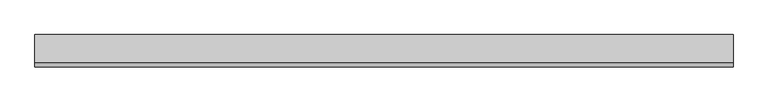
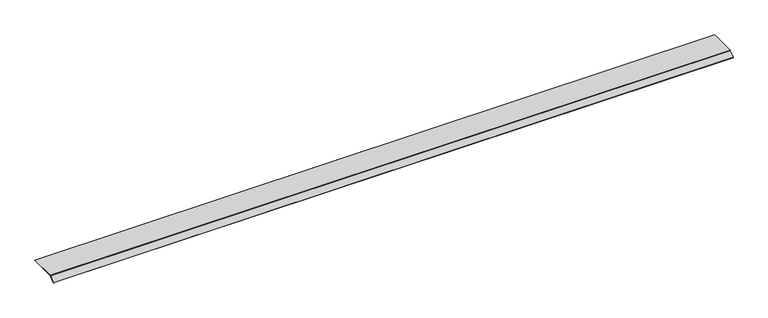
"""IFC4 building model written with IfcOpenShell, lengths in millimetres: proxy geometry, Electrical_Installation_Hager_Blank-Cover-800mm-Single-Sided-Height-70mm : Electrical_Installation_Hager_Blank-Cover-800mm-Single-Sided-Height-70mm."""

from ifc_helpers import new_model, si_unit, point, frame, frame_2d, origin, place, context, project, spatial, polyline, circle_curve, trimmed, segment, composite_curve, outline, extrude, source, transform, mapped, element, save


def electrical_fixtures_bae31a8f(model_context):
    return source(origin(), model_context, "Body", "SweptSolid", [
        extrude(outline(composite_curve([segment(polyline([(200.0, 40.5), (200.0, 37.5), (-199.8229541, 37.5)]), True, "CONTINUOUS"), segment(trimmed(circle_curve(frame_2d((-199.8229541, 36.0725733)), 1.4274267), [point((-199.8229541, 37.5))], [point((-200.8322972, 37.0819164))], True, "CARTESIAN"), True, "CONTINUOUS"), segment(polyline([(-200.8322972, 37.0819164), (-268.6627596, -30.7485461), (-270.78408, -28.6272257), (-202.8206472, 39.336207)]), True, "CONTINUOUS"), segment(trimmed(circle_curve(frame_2d((-200.0110025, 36.5265623)), 3.9734377), [point((-202.8206472, 39.336207))], [point((-200.0110025, 40.5))], False, "CARTESIAN"), True, "CONTINUOUS"), segment(polyline([(-200.0110025, 40.5), (200.0, 40.5)]), True, "CONTINUOUS")], self_intersect=False)), frame((0.0, 0.0, 0.0), z_axis=(1.0, 0.0, 0.0), x_axis=(0.0, 1.0, 0.0)), (0.0, 0.0, 1.0), 10103.0670279),
    ])


if __name__ == "__main__":
    model = new_model("IFC4")
    model_context = context("Model", 3, world=origin())
    ifc_project = project(units=[si_unit("LENGTHUNIT", "METRE", prefix="MILLI")], contexts=[model_context])
    site = spatial("IfcSite", under=ifc_project)
    building = spatial("IfcBuilding", under=site)
    placement = place(None, origin())
    electrical_fixtures_shape = electrical_fixtures_bae31a8f(model_context)
    element("IfcBuildingElementProxy", 1, Name="Electrical_Installation_Hager_Blank-Cover-800mm-Single-Sided-Height-70mm : Electrical_Installation_Hager_Blank-Cover-800mm-Single-Sided-Height-70mm", ObjectType="Electrical_Installation_Hager_Blank-Cover-800mm-Single-Sided-Height-70mm : Electrical_Installation_Hager_Blank-Cover-800mm-Single-Sided-Height-70mm", at=placement, inside=building, context=model_context, shape_type="MappedRepresentation", body=[
        mapped(electrical_fixtures_shape, transform((0.0, 0.0, 0.0), x_axis=(1.0, 0.0, 0.0), y_axis=(0.0, 1.0, 0.0), z_axis=(0.0, 0.0, 1.0))),
    ])
    save(model, "model.ifc")
